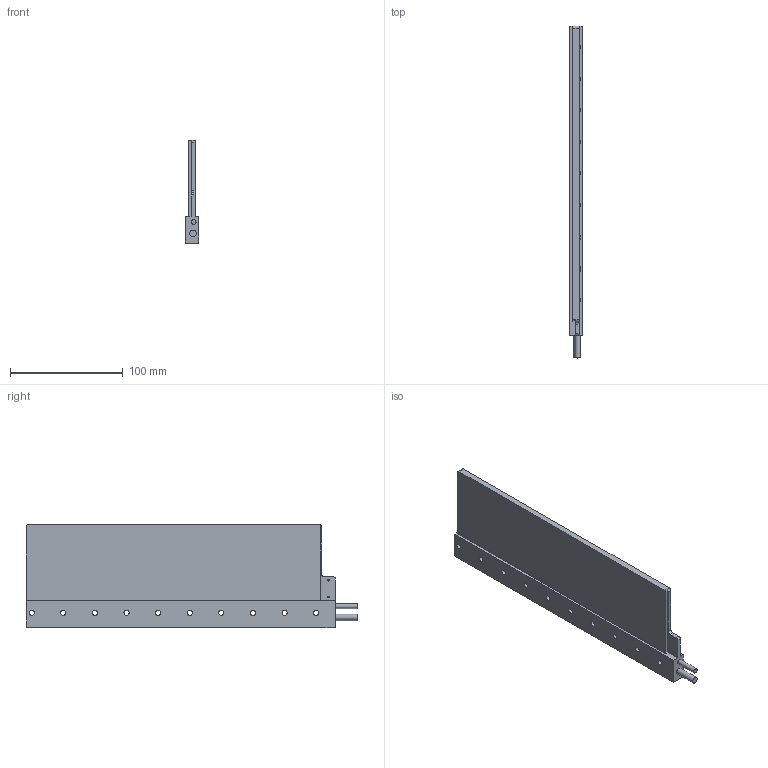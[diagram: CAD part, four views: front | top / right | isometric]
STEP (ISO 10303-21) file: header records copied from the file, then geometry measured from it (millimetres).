
FILE_DESCRIPTION( ( '-' ), '1' );
FILE_NAME( 'C:/Users/peikelboom/Desktop/STEP Files/Ironless/UL/Coilunit UL 9_160607.stp', '20-04-2016', ( 'P.Eikelboom' ), ( 'Technotion' ), 'PSStep 16.0.42', '-', ' ' );
FILE_SCHEMA( ( 'AUTOMOTIVE_DESIGN { 1 0 10303 214 1 1 1 1 }' ) );
Length unit declared in the file: millimetre
Products named in the file (1): GietharsUL9
Bounding box: 12 x 294 x 91.3 mm (x, y, z)
Surface area: 61064.8 mm2 (no closed solid volume)
Topology: 0 solids, 140 shells, 140 faces, 752 edges, 728 vertices
Faces by surface type: cylinder 70, plane 66, cone 4
Full cylindrical faces by diameter (mm): 1.6 x2, 3 x2, 3.2 x2, 4.3 x1, 4.5 x10, 5.7 x2, 5.8 x1
Entity records: 8538 total; most frequent: CARTESIAN_POINT 1881, DIRECTION 1204, ORIENTED_EDGE 708, EDGE_CURVE 708, VERTEX_POINT 708, LINE 422, VECTOR 422, AXIS2_PLACEMENT_3D 391
